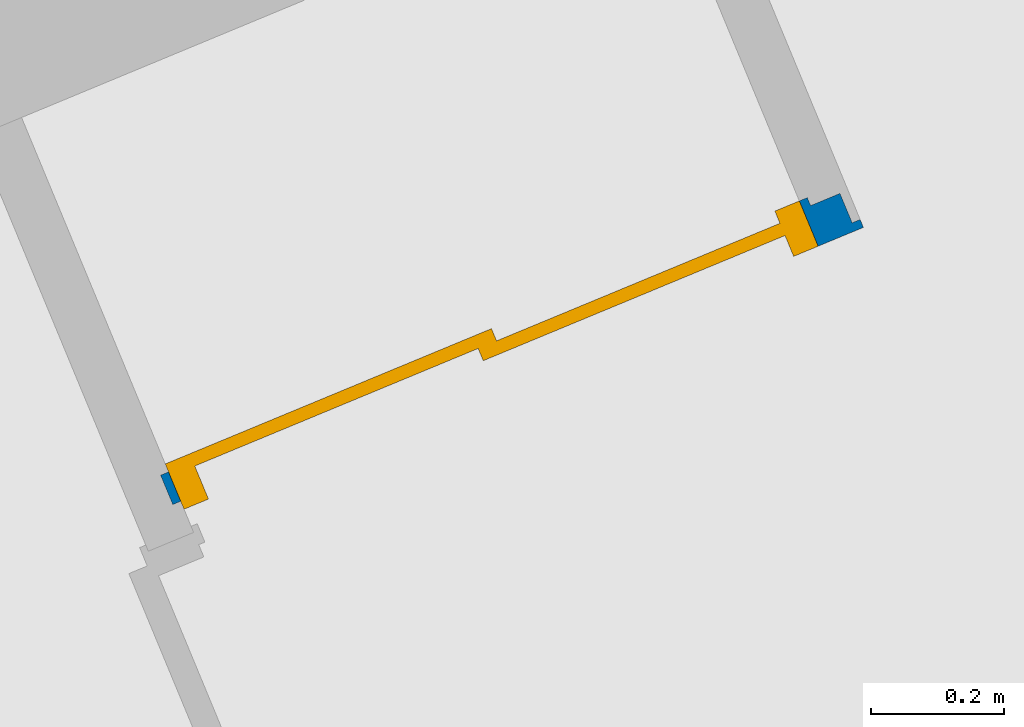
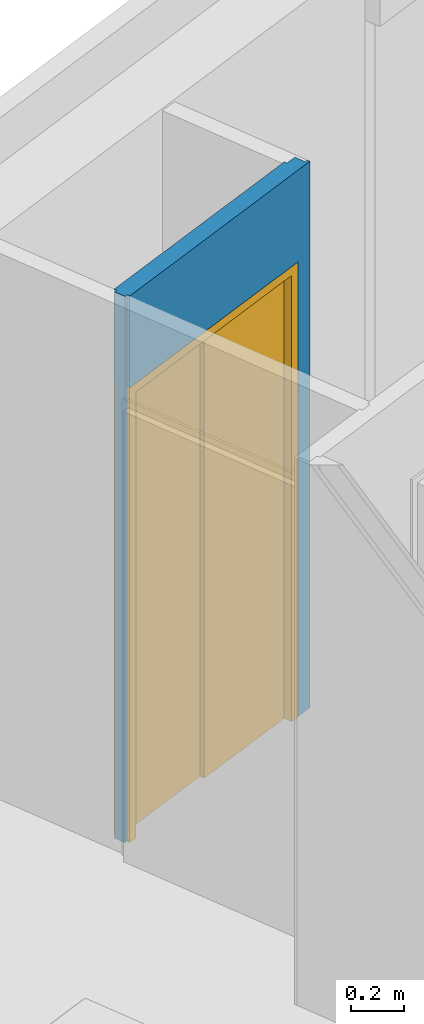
# One storey, part 10 of 90: 1 door, 1 wall, 1 opening.
"""IFC2X3 building model written with IfcOpenShell, lengths in metres."""

import ifcopenshell
import ifcopenshell.guid

model = None  # the IFC model being written
_history = None  # IfcOwnerHistory: only IFC2X3 demands one
_inside = {}  # id of a spatial element -> (the spatial element, [elements in it])
_under = {}  # id of a project, library or spatial element -> (it, [spatial elements below it])
_declared = {}  # id of a project -> (the project, [libraries it declares])
_typed = {}  # id of a type object -> (the type object, [elements of that type])
_made_of = {}  # id of a material, layer set ... -> (it, [elements and type objects made of it])


def new_model(schema):
    """Start an empty IFC model of exactly this schema.

    Asked for "IFC4X3", IfcOpenShell would pick the latest addendum, in which some entities
    have other attributes; the version numbers below select the first issue.
    IFC2X3 requires an IfcOwnerHistory on every rooted entity: one is made here for all.
    """
    global model, _history
    if schema == "IFC4X3":
        model = ifcopenshell.file(schema_version=(4, 3, 0, 0))
    else:
        model = ifcopenshell.file(schema=schema)
    _inside.clear()
    _under.clear()
    _declared.clear()
    _typed.clear()
    _made_of.clear()
    _history = None
    if model.schema == "IFC2X3":
        org = make("IfcOrganization", Name="unknown")
        user = make(
            "IfcPersonAndOrganization",
            ThePerson=make("IfcPerson", FamilyName="unknown"),
            TheOrganization=org,
        )
        app = make(
            "IfcApplication",
            ApplicationDeveloper=org,
            Version="unknown",
            ApplicationFullName="unknown",
            ApplicationIdentifier="unknown",
        )
        _history = make(
            "IfcOwnerHistory",
            OwningUser=user,
            OwningApplication=app,
            ChangeAction="ADDED",
            CreationDate=0,
        )
    return model


def make(cls, **values):
    """One entity of the class cls with the attributes given. An attribute that is None is left unset."""
    return model.create_entity(
        cls, **{name: value for name, value in values.items() if value is not None}
    )


def entity(cls, *values):
    """Any entity or typed value of the class cls, its attributes in the order of the schema. None: left unset."""
    e = model.create_entity(cls)
    for i, value in enumerate(values):
        if value is not None:
            e[i] = value
    return e


def rooted(cls, **values):
    """An entity with a GlobalId (a new one), such as an element, a storey or a relation."""
    return make(cls, GlobalId=ifcopenshell.guid.new(), OwnerHistory=_history, **values)


def si_unit(unit_type, name, prefix=None):
    """IfcSIUnit, for example si_unit("LENGTHUNIT", "METRE", prefix="MILLI")."""
    return make("IfcSIUnit", UnitType=unit_type, Prefix=prefix, Name=name)


def converted_unit(unit_type, name, factor, base, dimensions=None, offset=None):
    """IfcConversionBasedUnit, such as the inch: factor (a typed value) times the base unit."""
    return make(
        "IfcConversionBasedUnit"
        if offset is None
        else "IfcConversionBasedUnitWithOffset",
        ConversionOffset=offset,
        Dimensions=None
        if dimensions is None
        else entity("IfcDimensionalExponents", *dimensions),
        UnitType=unit_type,
        Name=name,
        ConversionFactor=make(
            "IfcMeasureWithUnit", ValueComponent=factor, UnitComponent=base
        ),
    )


def derived_unit(unit_type, elements):
    """IfcDerivedUnit: a product of units, each with its exponent."""
    return make(
        "IfcDerivedUnit",
        Elements=[
            make("IfcDerivedUnitElement", Unit=unit, Exponent=power)
            for unit, power in elements
        ],
        UnitType=unit_type,
    )


def money_unit(currency):
    """IfcMonetaryUnit."""
    return make("IfcMonetaryUnit", Currency=currency)


def assignment(units):
    """IfcUnitAssignment: the units of a project."""
    return None if units is None else make("IfcUnitAssignment", Units=units)


def point(xyz):
    """IfcCartesianPoint."""
    return None if xyz is None else make("IfcCartesianPoint", Coordinates=xyz)


def direction(xyz):
    """IfcDirection."""
    return None if xyz is None else make("IfcDirection", DirectionRatios=xyz)


def frame(location, z_axis=None, x_axis=None):
    """IfcAxis2Placement3D, a coordinate frame: its origin and axes. An axis left out is left unset."""
    return make(
        "IfcAxis2Placement3D",
        Location=point(location),
        Axis=direction(z_axis),
        RefDirection=direction(x_axis),
    )


def origin_with_axes():
    """The frame at (0, 0, 0) with the z axis (0, 0, 1) and the x axis (1, 0, 0) written out."""
    return frame((0.0, 0.0, 0.0), z_axis=(0.0, 0.0, 1.0), x_axis=(1.0, 0.0, 0.0))


def place(relative_to, where):
    """IfcLocalPlacement: puts the frame where relative to a parent placement (None: the world)."""
    return make(
        "IfcLocalPlacement", PlacementRelTo=relative_to, RelativePlacement=where
    )


def context(
    kind, dimensions, precision=None, world=None, true_north=None, identifier=None
):
    """IfcGeometricRepresentationContext, for example the 3D "Model" context."""
    return make(
        "IfcGeometricRepresentationContext",
        ContextIdentifier=identifier,
        ContextType=kind,
        CoordinateSpaceDimension=dimensions,
        Precision=precision,
        WorldCoordinateSystem=world,
        TrueNorth=true_north,
    )


def subcontext(parent, identifier, kind, view, scale=None):
    """IfcGeometricRepresentationSubContext, for example "Body" below "Model"."""
    return make(
        "IfcGeometricRepresentationSubContext",
        ContextIdentifier=identifier,
        ContextType=kind,
        ParentContext=parent,
        TargetScale=scale,
        TargetView=view,
    )


def project(units=None, contexts=None):
    """IfcProject with its units and contexts."""
    return rooted(
        "IfcProject",
        Name="project",
        RepresentationContexts=contexts,
        UnitsInContext=assignment(units),
    )


def spatial(cls, under=None, at=None, **own):
    """A site, building, storey or space (cls), placed at a placement, below another one or the project."""
    s = rooted(cls, ObjectPlacement=at, **own)
    if under is not None:
        _under.setdefault(under.id(), (under, []))[1].append(s)
    return s


def faces_of(points, faces, orient=None, outer=None):
    """IfcFace entities. A face is a list of loops; a loop is a list of indices into points, from 0.

    orient and outer hold one flag for each loop. By default every Orientation is true, the
    first loop of a face is its IfcFaceOuterBound and the others are IfcFaceBound.
    """
    made = []
    for i, loops in enumerate(faces):
        bounds = []
        for j, loop in enumerate(loops):
            is_outer = j == 0 if outer is None else outer[i][j]
            bounds.append(
                make(
                    "IfcFaceOuterBound" if is_outer else "IfcFaceBound",
                    Bound=make("IfcPolyLoop", Polygon=[points[k] for k in loop]),
                    Orientation=True if orient is None else orient[i][j],
                )
            )
        made.append(make("IfcFace", Bounds=bounds))
    return made


def faceted_brep(points, faces, orient=None, outer=None, voids=None):
    """IfcFacetedBrep: a solid bounded by flat faces; with voids (closed shells), ...WithVoids."""
    shared = [point(p) for p in points]
    hull = make("IfcClosedShell", CfsFaces=faces_of(shared, faces, orient, outer))
    if voids is None:
        return make("IfcFacetedBrep", Outer=hull)
    return make(
        "IfcFacetedBrepWithVoids",
        Outer=hull,
        Voids=[
            make(cls, CfsFaces=faces_of(shared, fs, o, b)) for cls, fs, o, b in voids
        ],
    )


def shape(context_of_items, identifier, shape_type, items):
    """IfcShapeRepresentation: the items that make up one representation, for example the "Body"."""
    return make(
        "IfcShapeRepresentation",
        ContextOfItems=context_of_items,
        RepresentationIdentifier=identifier,
        RepresentationType=shape_type,
        Items=items,
    )


def source(mapping_origin, context_of_items, identifier, shape_type, items):
    """IfcRepresentationMap: a shape defined once, which mapped items show again and again."""
    return make(
        "IfcRepresentationMap",
        MappingOrigin=mapping_origin,
        MappedRepresentation=shape(context_of_items, identifier, shape_type, items),
    )


def transform(
    local_origin,
    x_axis=None,
    y_axis=None,
    z_axis=None,
    scale=None,
    scale2=None,
    scale3=None,
    uniform=True,
):
    """IfcCartesianTransformationOperator3D, or its non-uniform kind. x_axis, y_axis, z_axis: its Axis1, 2, 3."""
    if uniform:
        return make(
            "IfcCartesianTransformationOperator3D",
            Axis1=direction(x_axis),
            Axis2=direction(y_axis),
            LocalOrigin=point(local_origin),
            Scale=scale,
            Axis3=direction(z_axis),
        )
    return make(
        "IfcCartesianTransformationOperator3DnonUniform",
        Axis1=direction(x_axis),
        Axis2=direction(y_axis),
        LocalOrigin=point(local_origin),
        Scale=scale,
        Axis3=direction(z_axis),
        Scale2=scale2,
        Scale3=scale3,
    )


def mapped(mapping_source, mapping_target):
    """IfcMappedItem: shows the shape of a source again, moved by a transform."""
    return make(
        "IfcMappedItem", MappingSource=mapping_source, MappingTarget=mapping_target
    )


def material(Name=None, Category=None):
    """IfcMaterial."""
    return make("IfcMaterial", Name=Name, Category=Category)


def material_list(materials):
    """IfcMaterialList."""
    return make("IfcMaterialList", Materials=materials)


def made_of(thing, what):
    """Note that an element or type object is made of a material, layer set ...; save() writes the relation."""
    if what is not None:
        _made_of.setdefault(what.id(), (what, []))[1].append(thing)
    return thing


def type_object(cls, material=None, **own):
    """A type object (cls), such as IfcWallType, which elements share."""
    return made_of(rooted(cls, **own), material)


def element(
    cls,
    number,
    at=None,
    inside=None,
    cuts=None,
    type_object=None,
    material=None,
    context=None,
    identifier="Body",
    shape_type=None,
    held_by="IfcProductDefinitionShape",
    body=None,
    shapes=None,
    **own,
):
    """One element of the class cls, such as IfcWall. Its Tag is "e" and its number.

    at: its placement. inside: the storey or other place that contains it. cuts: it is an
    opening in that element (IfcRelVoidsElement). A single representation is given by context,
    identifier, shape_type and body (its items); several are given by shapes. held_by: the class
    of the entity that holds the representations. save() writes the other relations.
    """
    e = rooted(cls, Tag="e%d" % number, ObjectPlacement=at, **own)
    if body is not None:
        shapes = [shape(context, identifier, shape_type, body)]
    if shapes is not None:
        e.Representation = make(held_by, Representations=shapes)
    if inside is not None:
        _inside.setdefault(inside.id(), (inside, []))[1].append(e)
    if cuts is not None:
        rooted(
            "IfcRelVoidsElement", RelatingBuildingElement=cuts, RelatedOpeningElement=e
        )
    if type_object is not None:
        _typed.setdefault(type_object.id(), (type_object, []))[1].append(e)
    return made_of(e, material)


def fill(opening, filler):
    """IfcRelFillsElement: the door or window that sits in an opening."""
    return rooted(
        "IfcRelFillsElement",
        RelatingOpeningElement=opening,
        RelatedBuildingElement=filler,
    )


def aggregate(whole, parts):
    """IfcRelAggregates: a whole, such as a stair, and the parts it consists of."""
    return rooted("IfcRelAggregates", RelatingObject=whole, RelatedObjects=parts)


def save(model, path):
    """Write the relations noted so far, then the file.

    IfcRelAggregates (storeys below a building ...), IfcRelContainedInSpatialStructure (elements
    in a storey), IfcRelDefinesByType, IfcRelAssociatesMaterial and IfcRelDeclares: one each for
    every whole, place, type object, material and project.
    """
    for whole, parts in _under.values():
        aggregate(whole, parts)
    for where, things in _inside.values():
        rooted(
            "IfcRelContainedInSpatialStructure",
            RelatedElements=things,
            RelatingStructure=where,
        )
    for kind, things in _typed.values():
        rooted("IfcRelDefinesByType", RelatedObjects=things, RelatingType=kind)
    for what, things in _made_of.values():
        rooted("IfcRelAssociatesMaterial", RelatedObjects=things, RelatingMaterial=what)
    for by, libraries in _declared.values():
        rooted("IfcRelDeclares", RelatingContext=by, RelatedDefinitions=libraries)
    model.write(path)


model = new_model("IFC2X3")

# Units and contexts
model_context = context("Model", 3, precision=1e-05, world=origin_with_axes(), true_north=direction((0.0, 1.0)))
body_context = subcontext(model_context, "Body", "Model", "MODEL_VIEW")
ifc_project = project(units=[si_unit("LENGTHUNIT", "METRE"), si_unit("AREAUNIT", "SQUARE_METRE"), si_unit("VOLUMEUNIT", "CUBIC_METRE"), converted_unit("PLANEANGLEUNIT", "DEGREE", entity("IfcPlaneAngleMeasure", 0.0174532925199), si_unit("PLANEANGLEUNIT", "RADIAN"), dimensions=[0, 0, 0, 0, 0, 0, 0]), si_unit("SOLIDANGLEUNIT", "STERADIAN"), money_unit("EUR"), converted_unit("TIMEUNIT", "Year", entity("IfcTimeMeasure", 31556926.0), si_unit("TIMEUNIT", "SECOND"), dimensions=[0, 0, 1, 0, 0, 0, 0]), si_unit("MASSUNIT", "GRAM", prefix="KILO"), si_unit("THERMODYNAMICTEMPERATUREUNIT", "DEGREE_CELSIUS"), si_unit("LUMINOUSINTENSITYUNIT", "LUMEN"), si_unit("ENERGYUNIT", "JOULE", prefix="MEGA"), derived_unit("THERMALCONDUCTANCEUNIT", [(si_unit("POWERUNIT", "WATT"), 1), (si_unit("LENGTHUNIT", "METRE"), -1), (si_unit("THERMODYNAMICTEMPERATUREUNIT", "KELVIN"), -1)]), derived_unit("SPECIFICHEATCAPACITYUNIT", [(si_unit("ENERGYUNIT", "JOULE"), 1), (si_unit("MASSUNIT", "GRAM", prefix="KILO"), -1), (si_unit("THERMODYNAMICTEMPERATUREUNIT", "KELVIN"), -1)]), derived_unit("MASSDENSITYUNIT", [(si_unit("MASSUNIT", "GRAM", prefix="KILO"), 1), (si_unit("VOLUMEUNIT", "CUBIC_METRE"), -1)])], contexts=[model_context])

# Site, building, storey
site_placement = place(None, origin_with_axes())
site = spatial("IfcSite", under=ifc_project, at=site_placement, Name="Site", CompositionType="ELEMENT")
building_placement = place(site_placement, origin_with_axes())
building = spatial("IfcBuilding", under=site, at=building_placement, Name="Bâtiment", CompositionType="ELEMENT")
storey_placement = place(building_placement, frame((0.0, 0.0, 2.72), z_axis=(0.0, 0.0, 1.0), x_axis=(1.0, 0.0, 0.0)))
storey = spatial("IfcBuildingStorey", under=building, at=storey_placement, Name="R+1", CompositionType="ELEMENT", Elevation=2.72)

# Wall, opening, door
ifc_material_1 = material(Name="Finition int - Plaque de plâtre")
ifc_material_2 = material(Name="Isolation - Laine de roche")
ifc_material_list = material_list([ifc_material_1, ifc_material_2, ifc_material_1])
wall_type = type_object("IfcWallType", Name="3 - Cloison 72mm Placostil 74", PredefinedType="USERDEFINED")
wall_placement = place(storey_placement, frame((-31.7589092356, -17.4945292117, 0.0), z_axis=(0.0, 0.0, 1.0), x_axis=(0.923701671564, 0.383112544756, 0.0)))
wall = element("IfcWall", 1, at=wall_placement, inside=storey, type_object=wall_type, material=ifc_material_list, Name="Cloison Placostil 72/48", ObjectType="PARTITIONING", context=body_context, shape_type="Brep", body=[
    faceted_brep([(1.10999999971, 0.061, 2.08), (1.10999999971, 0.061, 0.0), (1.12299999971, 0.061, 0.0), (1.12299999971, 0.061, 2.5), (0.0739999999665, 0.061, 2.5), (0.0739999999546, 0.061, 2.08), (1.10999999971, 0.074, 2.08), (1.10999999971, 0.074, 0.0), (1.12299999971, 0.074, 0.0), (1.12299999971, 0.074, 2.5), (0.0739999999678, 0.074, 2.5), (0.0739999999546, 0.074, 2.08)], [[[0, 1, 2, 3, 4, 5]], [[1, 0, 6, 7]], [[1, 7, 8, 2]], [[8, 9, 3, 2]], [[9, 10, 4, 3]], [[11, 5, 4, 10]], [[0, 5, 11, 6]], [[6, 11, 10, 9, 8, 7]]]),
    faceted_brep([(0.0739999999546, 0.013, 0.0), (0.0739999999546, 0.013, 2.08), (1.10999999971, 0.013, 2.08), (1.10999999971, 0.013, 0.0), (1.1709999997, 0.013, 0.0), (1.1709999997, 0.013, 2.5), (0.0609999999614, 0.013, 2.5), (0.0609999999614, 0.013, 0.0), (0.0739999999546, 0.061, 0.0), (0.0739999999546, 0.061, 2.08), (1.10999999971, 0.061, 2.08), (1.10999999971, 0.061, 0.0), (1.17099999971, 0.061, 0.0), (1.17099999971, 0.061, 2.5), (0.0609999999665, 0.061, 2.5), (0.0609999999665, 0.061, 0.0)], [[[0, 1, 2, 3, 4, 5, 6, 7]], [[1, 0, 8, 9]], [[2, 1, 9, 10]], [[3, 2, 10, 11]], [[3, 11, 12, 4]], [[12, 13, 5, 4]], [[13, 14, 6, 5]], [[15, 7, 6, 14]], [[8, 0, 7, 15]], [[9, 8, 15, 14, 13, 12, 11, 10]]]),
    faceted_brep([(1.10999999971, 0.0, 2.08), (1.10999999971, 0.0, 0.0), (1.1839999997, 0.0, 0.0), (1.1839999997, 0.0, 2.5), (0.0739999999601, 0.0, 2.5), (0.0739999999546, 0.0, 2.08), (1.10999999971, 0.013, 2.08), (1.10999999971, 0.013, 0.0), (1.1839999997, 0.013, 0.0), (1.1839999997, 0.013, 2.5), (0.0739999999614, 0.013, 2.5), (0.0739999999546, 0.013, 2.08)], [[[0, 1, 2, 3, 4, 5]], [[1, 0, 6, 7]], [[1, 7, 8, 2]], [[8, 9, 3, 2]], [[9, 10, 4, 3]], [[11, 5, 4, 10]], [[0, 5, 11, 6]], [[6, 11, 10, 9, 8, 7]]]),
])
opening_placement = place(wall_placement, frame((0.59199999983, 0.0, 0.0), z_axis=(0.0, 0.0, 1.0), x_axis=(1.0, 0.0, 0.0)))
opening = element("IfcOpeningElement", 2, at=opening_placement, cuts=wall, Name="Por-002", context=body_context, shape_type="Brep", body=[
    faceted_brep([(-0.517999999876, 0.074, 0.0), (0.517999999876, 0.074, 0.0), (0.517999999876, -0.074, 0.0), (-0.517999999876, -0.074, 0.0), (-0.517999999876, 0.074, 2.08), (0.517999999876, 0.074, 2.08), (0.517999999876, -0.074, 2.08), (-0.517999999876, -0.074, 2.08)], [[[0, 1, 2, 3]], [[0, 4, 5, 1]], [[1, 5, 6, 2]], [[3, 2, 6, 7]], [[4, 0, 3, 7]], [[5, 4, 7, 6]]]),
])
door_style = type_object("IfcDoorStyle", Name="Porte int générique 2019", ConstructionType="NOTDEFINED", OperationType="USERDEFINED", ParameterTakesPrecedence=False, Sizeable=False)
shared_shape = source(origin_with_axes(), body_context, "Body", "Brep", [
    faceted_brep([(-0.517999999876, 0.0, 0.0), (-0.517999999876, 0.0, 2.08), (0.517999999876, 0.0, 2.08), (0.517999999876, 0.0, 0.0), (0.477999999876, 0.0, 0.0), (0.477999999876, 0.0, 2.04), (-0.477999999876, 0.0, 2.04), (-0.477999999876, 0.0, 0.0), (-0.517999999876, -0.074, 0.0), (-0.517999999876, -0.074, 2.08), (0.517999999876, -0.074, 2.08), (0.517999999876, -0.074, 0.0), (0.477999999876, -0.074, 0.0), (0.477999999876, -0.074, 2.04), (-0.477999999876, -0.074, 2.04), (-0.477999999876, -0.074, 0.0)], [[[0, 1, 2, 3, 4, 5, 6, 7]], [[8, 9, 1, 0]], [[9, 10, 2, 1]], [[10, 11, 3, 2]], [[3, 11, 12, 4]], [[5, 4, 12, 13]], [[6, 5, 13, 14]], [[7, 6, 14, 15]], [[0, 7, 15, 8]], [[15, 14, 13, 12, 11, 10, 9, 8]]]),
    faceted_brep([(-0.477999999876, 0.0, 0.0), (0.015, 0.0, 0.0), (0.015, -0.02, 0.0), (-0.477999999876, -0.02, 0.0), (-0.477999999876, 0.0, 2.04), (0.015, 0.0, 2.04), (0.015, -0.02, 2.04), (-0.477999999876, -0.02, 2.04)], [[[0, 1, 2, 3]], [[0, 4, 5, 1]], [[1, 5, 6, 2]], [[3, 2, 6, 7]], [[4, 0, 3, 7]], [[5, 4, 7, 6]]]),
    faceted_brep([(-0.015, -0.02, 0.0), (0.477999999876, -0.02, 0.0), (0.477999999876, -0.04, 0.0), (-0.015, -0.04, 0.0), (-0.015, -0.02, 2.04), (0.477999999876, -0.02, 2.04), (0.477999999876, -0.04, 2.04), (-0.015, -0.04, 2.04)], [[[0, 1, 2, 3]], [[0, 4, 5, 1]], [[1, 5, 6, 2]], [[3, 2, 6, 7]], [[4, 0, 3, 7]], [[5, 4, 7, 6]]]),
])
door_placement = place(opening_placement, frame((-0.477999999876, 0.0, 0.0), z_axis=(0.0, 0.0, 1.0), x_axis=(1.0, 0.0, 0.0)))
door = element("IfcDoor", 3, at=door_placement, inside=storey, type_object=door_style, Name="Por-002", ObjectType="DOOR", OverallHeight=2.04, OverallWidth=0.956, context=body_context, shape_type="MappedRepresentation", body=[
    mapped(shared_shape, transform((0.477999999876, 0.074, 0.0))),
])
fill(opening, door)

save(model, "model.ifc")
